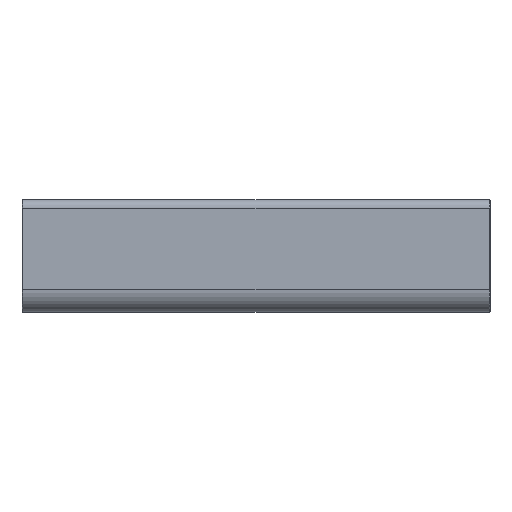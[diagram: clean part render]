
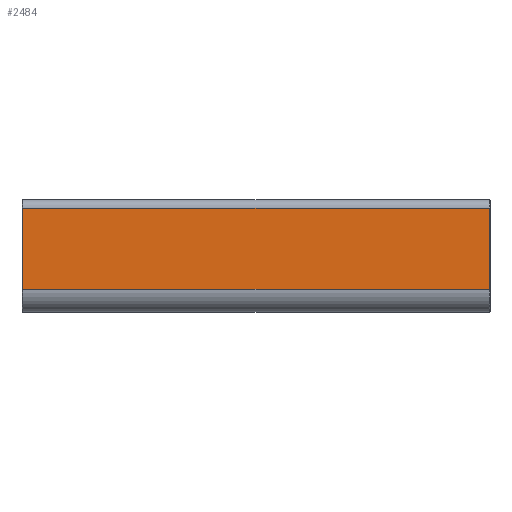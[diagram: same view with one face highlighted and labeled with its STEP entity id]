
A CAD part, top view. The second image highlights one B-rep face of the part: STEP entity #2484.
In plain terms, the highlighted planar face has unit normal (0, 0, 1).
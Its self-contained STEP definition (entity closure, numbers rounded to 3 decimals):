
#1119 = PLANE('',#1120);
#1120 = AXIS2_PLACEMENT_3D('',#1121,#1122,#1123);
#1121 = CARTESIAN_POINT('',(-71.9,-25.5,1.9));
#1122 = DIRECTION('',(0.707,0.,-0.707)
  );
#1123 = DIRECTION('',(0.,-1.,0.));
#1434 = PLANE('',#1435);
#1435 = AXIS2_PLACEMENT_3D('',#1436,#1437,#1438);
#1436 = CARTESIAN_POINT('',(71.9,-25.5,1.9));
#1437 = DIRECTION('',(0.707,0.,0.707));
#1438 = DIRECTION('',(0.,-1.,0.));
#1568 = CYLINDRICAL_SURFACE('',#1569,2.5);
#1569 = AXIS2_PLACEMENT_3D('',#1570,#1571,#1572);
#1570 = CARTESIAN_POINT('',(-72.,-0.5,-0.5));
#1571 = DIRECTION('',(-1.,-0.,0.));
#1572 = DIRECTION('',(0.,1.,0.));
#1783 = VERTEX_POINT('',#1784);
#1784 = CARTESIAN_POINT('',(-71.8,-25.5,2.));
#1799 = CYLINDRICAL_SURFACE('',#1800,7.);
#1800 = AXIS2_PLACEMENT_3D('',#1801,#1802,#1803);
#1801 = CARTESIAN_POINT('',(-72.,-25.5,-5.));
#1802 = DIRECTION('',(-1.,0.,0.));
#1803 = DIRECTION('',(0.,0.,1.));
#1893 = EDGE_CURVE('',#1783,#1894,#1896,.T.);
#1894 = VERTEX_POINT('',#1895);
#1895 = CARTESIAN_POINT('',(-71.8,-0.5,2.));
#1896 = SURFACE_CURVE('',#1897,(#1901,#1908),.PCURVE_S1.);
#1897 = LINE('',#1898,#1899);
#1898 = CARTESIAN_POINT('',(-71.8,-25.5,2.));
#1899 = VECTOR('',#1900,1.);
#1900 = DIRECTION('',(0.,1.,0.));
#1901 = PCURVE('',#1119,#1902);
#1902 = DEFINITIONAL_REPRESENTATION('',(#1903),#1907);
#1903 = LINE('',#1904,#1905);
#1904 = CARTESIAN_POINT('',(-0.,-0.141));
#1905 = VECTOR('',#1906,1.);
#1906 = DIRECTION('',(-1.,0.));
#1907 = ( GEOMETRIC_REPRESENTATION_CONTEXT(2) 
PARAMETRIC_REPRESENTATION_CONTEXT() REPRESENTATION_CONTEXT('2D SPACE',''
  ) );
#1908 = PCURVE('',#1909,#1914);
#1909 = PLANE('',#1910);
#1910 = AXIS2_PLACEMENT_3D('',#1911,#1912,#1913);
#1911 = CARTESIAN_POINT('',(-72.,-25.5,2.));
#1912 = DIRECTION('',(0.,0.,1.));
#1913 = DIRECTION('',(0.,1.,0.));
#1914 = DEFINITIONAL_REPRESENTATION('',(#1915),#1919);
#1915 = LINE('',#1916,#1917);
#1916 = CARTESIAN_POINT('',(0.,-0.2));
#1917 = VECTOR('',#1918,1.);
#1918 = DIRECTION('',(1.,0.));
#1919 = ( GEOMETRIC_REPRESENTATION_CONTEXT(2) 
PARAMETRIC_REPRESENTATION_CONTEXT() REPRESENTATION_CONTEXT('2D SPACE',''
  ) );
#2103 = VERTEX_POINT('',#2104);
#2104 = CARTESIAN_POINT('',(71.8,-25.5,2.));
#2203 = EDGE_CURVE('',#2103,#2204,#2206,.T.);
#2204 = VERTEX_POINT('',#2205);
#2205 = CARTESIAN_POINT('',(71.8,-0.5,2.));
#2206 = SURFACE_CURVE('',#2207,(#2211,#2218),.PCURVE_S1.);
#2207 = LINE('',#2208,#2209);
#2208 = CARTESIAN_POINT('',(71.8,-25.5,2.));
#2209 = VECTOR('',#2210,1.);
#2210 = DIRECTION('',(0.,1.,0.));
#2211 = PCURVE('',#1434,#2212);
#2212 = DEFINITIONAL_REPRESENTATION('',(#2213),#2217);
#2213 = LINE('',#2214,#2215);
#2214 = CARTESIAN_POINT('',(-0.,-0.141));
#2215 = VECTOR('',#2216,1.);
#2216 = DIRECTION('',(-1.,0.));
#2217 = ( GEOMETRIC_REPRESENTATION_CONTEXT(2) 
PARAMETRIC_REPRESENTATION_CONTEXT() REPRESENTATION_CONTEXT('2D SPACE',''
  ) );
#2218 = PCURVE('',#1909,#2219);
#2219 = DEFINITIONAL_REPRESENTATION('',(#2220),#2224);
#2220 = LINE('',#2221,#2222);
#2221 = CARTESIAN_POINT('',(0.,-143.8));
#2222 = VECTOR('',#2223,1.);
#2223 = DIRECTION('',(1.,0.));
#2224 = ( GEOMETRIC_REPRESENTATION_CONTEXT(2) 
PARAMETRIC_REPRESENTATION_CONTEXT() REPRESENTATION_CONTEXT('2D SPACE',''
  ) );
#2409 = EDGE_CURVE('',#1894,#2204,#2410,.T.);
#2410 = SURFACE_CURVE('',#2411,(#2415,#2422),.PCURVE_S1.);
#2411 = LINE('',#2412,#2413);
#2412 = CARTESIAN_POINT('',(-72.,-0.5,2.));
#2413 = VECTOR('',#2414,1.);
#2414 = DIRECTION('',(1.,0.,0.));
#2415 = PCURVE('',#1568,#2416);
#2416 = DEFINITIONAL_REPRESENTATION('',(#2417),#2421);
#2417 = LINE('',#2418,#2419);
#2418 = CARTESIAN_POINT('',(-1.571,0.));
#2419 = VECTOR('',#2420,1.);
#2420 = DIRECTION('',(-0.,-1.));
#2421 = ( GEOMETRIC_REPRESENTATION_CONTEXT(2) 
PARAMETRIC_REPRESENTATION_CONTEXT() REPRESENTATION_CONTEXT('2D SPACE',''
  ) );
#2422 = PCURVE('',#1909,#2423);
#2423 = DEFINITIONAL_REPRESENTATION('',(#2424),#2428);
#2424 = LINE('',#2425,#2426);
#2425 = CARTESIAN_POINT('',(25.,0.));
#2426 = VECTOR('',#2427,1.);
#2427 = DIRECTION('',(0.,-1.));
#2428 = ( GEOMETRIC_REPRESENTATION_CONTEXT(2) 
PARAMETRIC_REPRESENTATION_CONTEXT() REPRESENTATION_CONTEXT('2D SPACE',''
  ) );
#2434 = EDGE_CURVE('',#1783,#2103,#2435,.T.);
#2435 = SURFACE_CURVE('',#2436,(#2440,#2447),.PCURVE_S1.);
#2436 = LINE('',#2437,#2438);
#2437 = CARTESIAN_POINT('',(-72.,-25.5,2.));
#2438 = VECTOR('',#2439,1.);
#2439 = DIRECTION('',(1.,0.,0.));
#2440 = PCURVE('',#1799,#2441);
#2441 = DEFINITIONAL_REPRESENTATION('',(#2442),#2446);
#2442 = LINE('',#2443,#2444);
#2443 = CARTESIAN_POINT('',(-0.,0.));
#2444 = VECTOR('',#2445,1.);
#2445 = DIRECTION('',(-0.,-1.));
#2446 = ( GEOMETRIC_REPRESENTATION_CONTEXT(2) 
PARAMETRIC_REPRESENTATION_CONTEXT() REPRESENTATION_CONTEXT('2D SPACE',''
  ) );
#2447 = PCURVE('',#1909,#2448);
#2448 = DEFINITIONAL_REPRESENTATION('',(#2449),#2453);
#2449 = LINE('',#2450,#2451);
#2450 = CARTESIAN_POINT('',(0.,0.));
#2451 = VECTOR('',#2452,1.);
#2452 = DIRECTION('',(0.,-1.));
#2453 = ( GEOMETRIC_REPRESENTATION_CONTEXT(2) 
PARAMETRIC_REPRESENTATION_CONTEXT() REPRESENTATION_CONTEXT('2D SPACE',''
  ) );
#2484 = ADVANCED_FACE('',(#2485),#1909,.T.);
#2485 = FACE_BOUND('',#2486,.T.);
#2486 = EDGE_LOOP('',(#2487,#2488,#2489,#2490));
#2487 = ORIENTED_EDGE('',*,*,#2434,.T.);
#2488 = ORIENTED_EDGE('',*,*,#2203,.T.);
#2489 = ORIENTED_EDGE('',*,*,#2409,.F.);
#2490 = ORIENTED_EDGE('',*,*,#1893,.F.);
